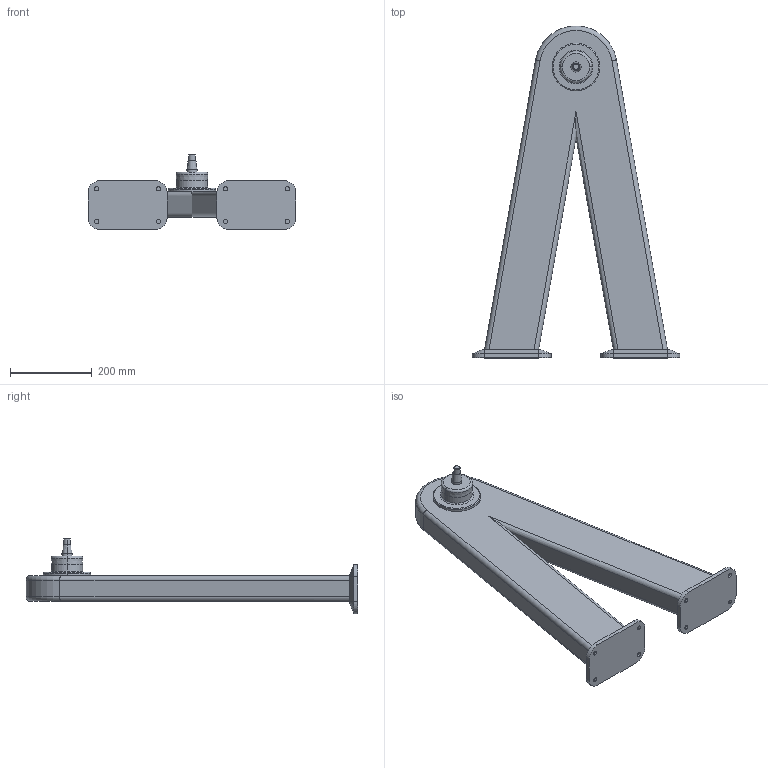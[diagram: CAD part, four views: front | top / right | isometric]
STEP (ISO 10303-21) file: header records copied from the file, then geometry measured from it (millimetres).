
FILE_DESCRIPTION (( 'STEP AP214' ), '1' );
FILE_NAME ('WP850_H710.STEP', '2014-09-08T13:04:07', ( '' ), ( '' ), 'SwSTEP 2.0', 'SolidWorks 2014', '' );
FILE_SCHEMA (( 'AUTOMOTIVE_DESIGN' ));
Length unit declared in the file: millimetre
Products named in the file (1): WP850_H710
Bounding box: 507.41 x 810 x 183.98 mm (x, y, z)
Volume: 13031699.6 mm3; surface area: 635300.3 mm2
Topology: 1 solids, 1 shells, 101 faces, 221 edges, 136 vertices
Faces by surface type: cylinder 41, plane 38, cone 14, torus 8
Entity records: 2795 total; most frequent: DIRECTION 513, CARTESIAN_POINT 489, ORIENTED_EDGE 442, EDGE_CURVE 221, AXIS2_PLACEMENT_3D 200, VERTEX_POINT 136, EDGE_LOOP 115, VECTOR 113
